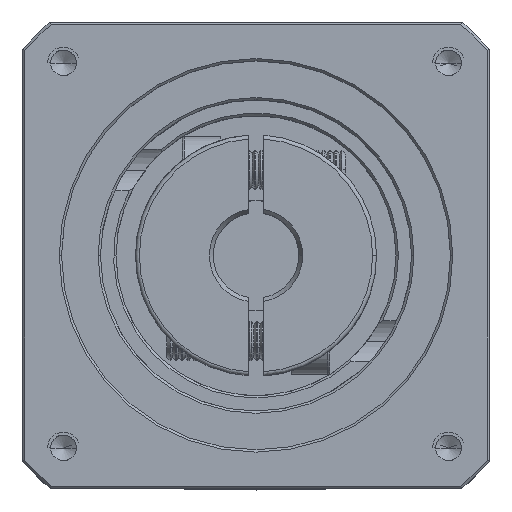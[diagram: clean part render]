
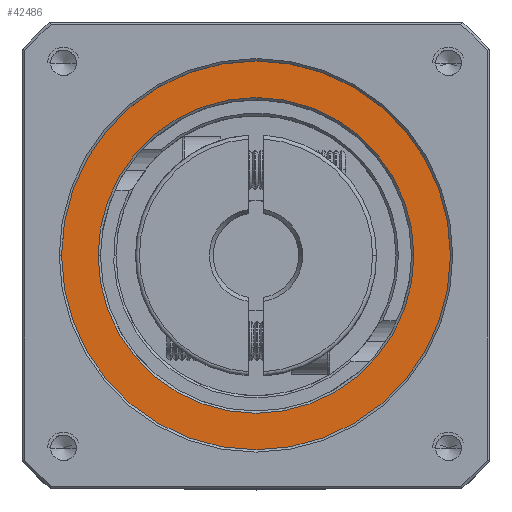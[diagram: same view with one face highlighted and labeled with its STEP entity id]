
A CAD part, top view. The second image highlights one B-rep face of the part: STEP entity #42486.
In plain terms, the highlighted planar face has unit normal (0, 0, 1).
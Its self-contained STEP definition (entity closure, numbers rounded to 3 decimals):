
#2771 = EDGE_CURVE ( 'NONE', #19306, #37195, #3479, .T. ) ;
#3479 = CIRCLE ( 'NONE', #82763, 20.3 ) ;
#7334 = PLANE ( 'NONE',  #63924 ) ;
#11111 = EDGE_LOOP ( 'NONE', ( #61956, #18030 ) ) ;
#12456 = DIRECTION ( 'NONE',  ( 0., 0., -1. ) ) ;
#18030 = ORIENTED_EDGE ( 'NONE', *, *, #47403, .T. ) ;
#18402 = EDGE_CURVE ( 'NONE', #51315, #18900, #90182, .T. ) ;
#18900 = VERTEX_POINT ( 'NONE', #76552 ) ;
#19306 = VERTEX_POINT ( 'NONE', #23183 ) ;
#23183 = CARTESIAN_POINT ( 'NONE',  ( -54.416, 10.431, 30.713 ) ) ;
#28457 = CARTESIAN_POINT ( 'NONE',  ( -74.716, 10.431, 30.713 ) ) ;
#33251 = CARTESIAN_POINT ( 'NONE',  ( -74.716, 10.431, 30.713 ) ) ;
#35864 = DIRECTION ( 'NONE',  ( 0., 0., 1. ) ) ;
#36793 = DIRECTION ( 'NONE',  ( 1., 0., 0. ) ) ;
#37195 = VERTEX_POINT ( 'NONE', #43380 ) ;
#40739 = CARTESIAN_POINT ( 'NONE',  ( -74.716, 10.431, 30.713 ) ) ;
#41457 = AXIS2_PLACEMENT_3D ( 'NONE', #33251, #91341, #41625 ) ;
#41625 = DIRECTION ( 'NONE',  ( 1., 0., 0. ) ) ;
#42486 = ADVANCED_FACE ( 'NONE', ( #83873, #105910 ), #7334, .T. ) ;
#43380 = CARTESIAN_POINT ( 'NONE',  ( -95.016, 10.431, 30.713 ) ) ;
#43913 = EDGE_LOOP ( 'NONE', ( #77159, #104806 ) ) ;
#47367 = AXIS2_PLACEMENT_3D ( 'NONE', #28457, #86563, #36793 ) ;
#47403 = EDGE_CURVE ( 'NONE', #18900, #51315, #99449, .T. ) ;
#49032 = DIRECTION ( 'NONE',  ( 1., 0., 0. ) ) ;
#51315 = VERTEX_POINT ( 'NONE', #75527 ) ;
#61956 = ORIENTED_EDGE ( 'NONE', *, *, #18402, .T. ) ;
#62179 = CARTESIAN_POINT ( 'NONE',  ( -74.716, 10.431, 30.713 ) ) ;
#63924 = AXIS2_PLACEMENT_3D ( 'NONE', #40739, #98758, #49032 ) ;
#66394 = CIRCLE ( 'NONE', #47367, 20.3 ) ;
#67490 = EDGE_CURVE ( 'NONE', #37195, #19306, #66394, .T. ) ;
#70520 = DIRECTION ( 'NONE',  ( 1., 0., 0. ) ) ;
#70750 = AXIS2_PLACEMENT_3D ( 'NONE', #85650, #35864, #93924 ) ;
#75527 = CARTESIAN_POINT ( 'NONE',  ( -49.716, 10.431, 30.713 ) ) ;
#76552 = CARTESIAN_POINT ( 'NONE',  ( -99.716, 10.431, 30.713 ) ) ;
#77159 = ORIENTED_EDGE ( 'NONE', *, *, #2771, .T. ) ;
#82763 = AXIS2_PLACEMENT_3D ( 'NONE', #62179, #12456, #70520 ) ;
#83873 = FACE_BOUND ( 'NONE', #43913, .T. ) ;
#85650 = CARTESIAN_POINT ( 'NONE',  ( -74.716, 10.431, 30.713 ) ) ;
#86563 = DIRECTION ( 'NONE',  ( 0., 0., -1. ) ) ;
#90182 = CIRCLE ( 'NONE', #41457, 25. ) ;
#91341 = DIRECTION ( 'NONE',  ( 0., 0., 1. ) ) ;
#93924 = DIRECTION ( 'NONE',  ( 1., 0., 0. ) ) ;
#98758 = DIRECTION ( 'NONE',  ( 0., 0., 1. ) ) ;
#99449 = CIRCLE ( 'NONE', #70750, 25. ) ;
#104806 = ORIENTED_EDGE ( 'NONE', *, *, #67490, .T. ) ;
#105910 = FACE_OUTER_BOUND ( 'NONE', #11111, .T. ) ;
